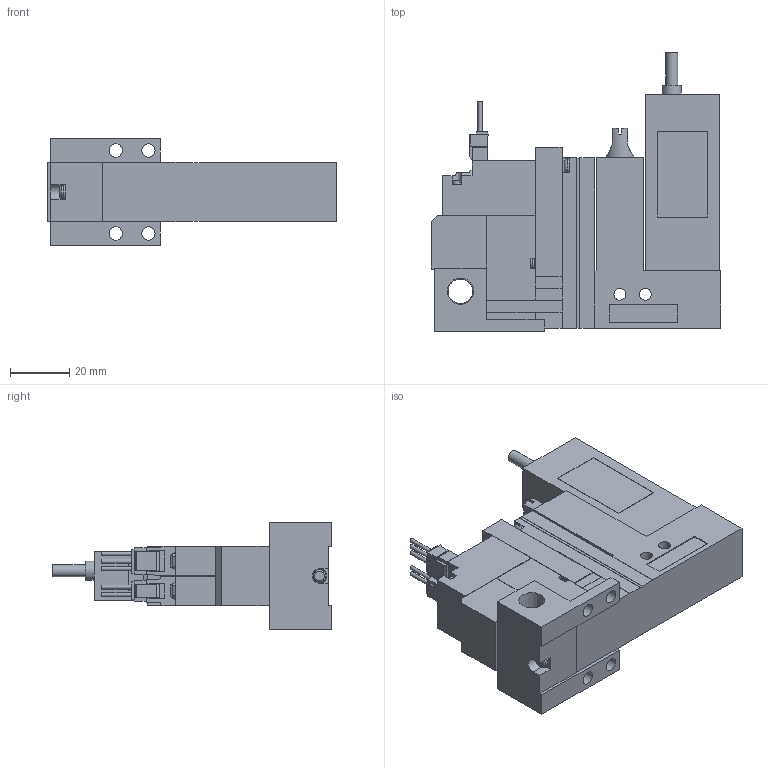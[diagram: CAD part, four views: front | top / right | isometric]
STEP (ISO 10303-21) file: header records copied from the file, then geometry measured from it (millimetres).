
FILE_DESCRIPTION(('STEP AP203'),'1');
FILE_NAME('VG_VGPLC5WLR101.stp','2025-02-18T05:39:18',(' '),(' '),'Spatial InterOp 3D',' ',' ');
FILE_SCHEMA(('CONFIG_CONTROL_DESIGN'));
Length unit declared in the file: millimetre
Products named in the file (5): BMC22M※※※※VG_VGPLC5WLR101; Solenoid valve W; Pressure sensor VGLC; Unit LC; Base MR10R
Assembly tree (4 placements, depth 2):
  BMC22M※※※※VG_VGPLC5WLR101
    Solenoid valve W
    Pressure sensor VGLC
    Unit LC
    Base MR10R
Bounding box: 97.6 x 94 x 36 mm (x, y, z)
Volume: 117586.7 mm3; surface area: 31692.1 mm2
Topology: 4 solids, 4 shells, 417 faces, 1118 edges, 738 vertices
Faces by surface type: plane 350, cylinder 53, cone 9, torus 5
Full cylindrical faces by diameter (mm): 1.4 x5, 2.5 x3, 3 x4, 3.5 x4, 3.6 x1, 4 x6, 4.134 x1, 4.5 x4, 5.2 x1, 6 x1, 6.5 x1, 6.6 x1, 8.279 x1
Entity records: 12874 total; most frequent: CARTESIAN_POINT 2377, ORIENTED_EDGE 2090, DIRECTION 2031, EDGE_CURVE 1045, LINE 889, VECTOR 889, VERTEX_POINT 716, AXIS2_PLACEMENT_3D 571
